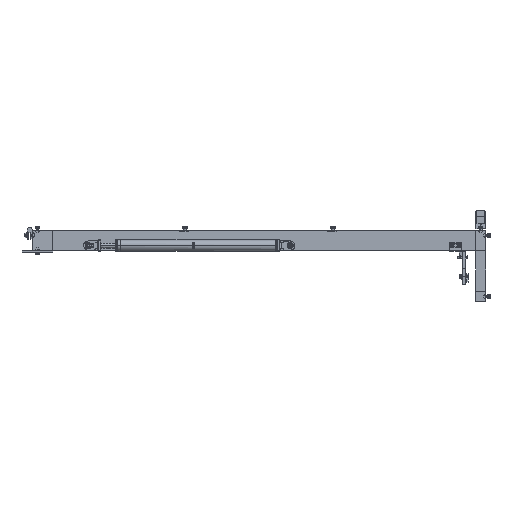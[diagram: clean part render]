
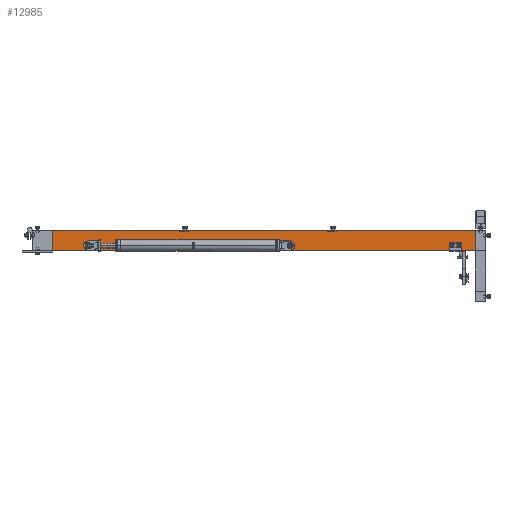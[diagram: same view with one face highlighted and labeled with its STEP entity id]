
A CAD part, left-side view. The second image highlights one B-rep face of the part: STEP entity #12985.
In plain terms, the highlighted planar face has unit normal (-1, 0, 0).
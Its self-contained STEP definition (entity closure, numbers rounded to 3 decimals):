
#3423=PLANE('',#115324);
#3424=PLANE('',#115325);
#3425=PLANE('',#115326);
#3426=PLANE('',#115327);
#3427=PLANE('',#115328);
#12985=ADVANCED_FACE('',(#16267),#3424,.T.);
#16267=FACE_OUTER_BOUND('',#19904,.T.);
#19904=EDGE_LOOP('',(#33861,#33862,#33863,#33864));
#33861=ORIENTED_EDGE('',*,*,#86446,.F.);
#33862=ORIENTED_EDGE('',*,*,#86448,.T.);
#33863=ORIENTED_EDGE('',*,*,#86449,.T.);
#33864=ORIENTED_EDGE('',*,*,#86450,.T.);
#53995=PCURVE('',#3423,#69097);
#53997=PCURVE('',#3424,#69099);
#53998=PCURVE('',#3424,#69100);
#53999=PCURVE('',#3424,#69101);
#54000=PCURVE('',#3424,#69102);
#54001=PCURVE('',#3425,#69103);
#54007=PCURVE('',#3426,#69109);
#54010=PCURVE('',#3427,#69112);
#69097=DEFINITIONAL_REPRESENTATION('',(#103894),#219083);
#69099=DEFINITIONAL_REPRESENTATION('',(#103897),#219083);
#69100=DEFINITIONAL_REPRESENTATION('',(#103899),#219083);
#69101=DEFINITIONAL_REPRESENTATION('',(#103901),#219083);
#69102=DEFINITIONAL_REPRESENTATION('',(#103903),#219083);
#69103=DEFINITIONAL_REPRESENTATION('',(#103904),#219083);
#69109=DEFINITIONAL_REPRESENTATION('',(#103912),#219083);
#69112=DEFINITIONAL_REPRESENTATION('',(#103915),#219083);
#78113=SURFACE_CURVE('',#103893,(#53995,#53997),.PCURVE_S1.);
#78115=SURFACE_CURVE('',#103898,(#53998,#54010),.PCURVE_S1.);
#78116=SURFACE_CURVE('',#103900,(#53999,#54001),.PCURVE_S1.);
#78117=SURFACE_CURVE('',#103902,(#54000,#54007),.PCURVE_S1.);
#86446=EDGE_CURVE('',#110984,#110983,#78113,.T.);
#86448=EDGE_CURVE('',#110984,#110986,#78115,.T.);
#86449=EDGE_CURVE('',#110986,#110985,#78116,.T.);
#86450=EDGE_CURVE('',#110985,#110983,#78117,.T.);
#103893=B_SPLINE_CURVE_WITH_KNOTS('',1,(#208781,#208782),.UNSPECIFIED.,.F.,
 .F.,(2,2),(-400.,0.),.UNSPECIFIED.);
#103894=B_SPLINE_CURVE_WITH_KNOTS('',1,(#208783,#208784),.UNSPECIFIED.,.F.,
 .F.,(2,2),(-400.,0.),.UNSPECIFIED.);
#103897=B_SPLINE_CURVE_WITH_KNOTS('',1,(#208789,#208790),.UNSPECIFIED.,.F.,
 .F.,(2,2),(-400.,0.),.UNSPECIFIED.);
#103898=B_SPLINE_CURVE_WITH_KNOTS('',1,(#208791,#208792),.UNSPECIFIED.,.F.,
 .F.,(2,2),(-100.,-50.),.UNSPECIFIED.);
#103899=B_SPLINE_CURVE_WITH_KNOTS('',1,(#208793,#208794),.UNSPECIFIED.,.F.,
 .F.,(2,2),(-100.,-50.),.UNSPECIFIED.);
#103900=B_SPLINE_CURVE_WITH_KNOTS('',1,(#208795,#208796),.UNSPECIFIED.,.F.,
 .F.,(2,2),(-400.,0.),.UNSPECIFIED.);
#103901=B_SPLINE_CURVE_WITH_KNOTS('',1,(#208797,#208798),.UNSPECIFIED.,.F.,
 .F.,(2,2),(-400.,0.),.UNSPECIFIED.);
#103902=B_SPLINE_CURVE_WITH_KNOTS('',1,(#208799,#208800),.UNSPECIFIED.,.F.,
 .F.,(2,2),(50.,100.),.UNSPECIFIED.);
#103903=B_SPLINE_CURVE_WITH_KNOTS('',1,(#208801,#208802),.UNSPECIFIED.,.F.,
 .F.,(2,2),(50.,100.),.UNSPECIFIED.);
#103904=B_SPLINE_CURVE_WITH_KNOTS('',1,(#208803,#208804),.UNSPECIFIED.,.F.,
 .F.,(2,2),(-400.,0.),.UNSPECIFIED.);
#103912=B_SPLINE_CURVE_WITH_KNOTS('',1,(#208819,#208820),.UNSPECIFIED.,.F.,
 .F.,(2,2),(50.,100.),.UNSPECIFIED.);
#103915=B_SPLINE_CURVE_WITH_KNOTS('',1,(#208825,#208826),.UNSPECIFIED.,.F.,
 .F.,(2,2),(-100.,-50.),.UNSPECIFIED.);
#110983=VERTEX_POINT('',#208755);
#110984=VERTEX_POINT('',#208756);
#110985=VERTEX_POINT('',#208757);
#110986=VERTEX_POINT('',#208758);
#115324=AXIS2_PLACEMENT_3D('',#208746,#117682,$);
#115325=AXIS2_PLACEMENT_3D('',#208747,#117683,$);
#115326=AXIS2_PLACEMENT_3D('',#208748,#117684,$);
#115327=AXIS2_PLACEMENT_3D('',#208749,#117685,$);
#115328=AXIS2_PLACEMENT_3D('',#208750,#117686,$);
#117682=DIRECTION('',(0.,0.,1.));
#117683=DIRECTION('',(-1.,0.,0.));
#117684=DIRECTION('',(0.,0.,-1.));
#117685=DIRECTION('',(0.,-1.,0.));
#117686=DIRECTION('',(0.,1.,0.));
#208746=CARTESIAN_POINT('',(-762.,-565.,180.));
#208747=CARTESIAN_POINT('',(-782.,-565.,180.));
#208748=CARTESIAN_POINT('',(-782.,-565.,140.));
#208749=CARTESIAN_POINT('',(-782.,-565.,140.));
#208750=CARTESIAN_POINT('',(-782.,265.,140.));
#208755=CARTESIAN_POINT('',(-782.,-565.,180.));
#208756=CARTESIAN_POINT('',(-782.,265.,180.));
#208757=CARTESIAN_POINT('',(-782.,-565.,140.));
#208758=CARTESIAN_POINT('',(-782.,265.,140.));
#208781=CARTESIAN_POINT('',(-782.,265.,180.));
#208782=CARTESIAN_POINT('',(-782.,-565.,180.));
#208783=CARTESIAN_POINT('',(400.,-100.));
#208784=CARTESIAN_POINT('',(0.,-100.));
#208789=CARTESIAN_POINT('',(400.,-100.));
#208790=CARTESIAN_POINT('',(0.,-100.));
#208791=CARTESIAN_POINT('',(-782.,265.,180.));
#208792=CARTESIAN_POINT('',(-782.,265.,140.));
#208793=CARTESIAN_POINT('',(400.,-100.));
#208794=CARTESIAN_POINT('',(400.,-50.));
#208795=CARTESIAN_POINT('',(-782.,265.,140.));
#208796=CARTESIAN_POINT('',(-782.,-565.,140.));
#208797=CARTESIAN_POINT('',(400.,-50.));
#208798=CARTESIAN_POINT('',(0.,-50.));
#208799=CARTESIAN_POINT('',(-782.,-565.,140.));
#208800=CARTESIAN_POINT('',(-782.,-565.,180.));
#208801=CARTESIAN_POINT('',(0.,-50.));
#208802=CARTESIAN_POINT('',(0.,-100.));
#208803=CARTESIAN_POINT('',(400.,-50.));
#208804=CARTESIAN_POINT('',(0.,-50.));
#208819=CARTESIAN_POINT('',(-40.,0.));
#208820=CARTESIAN_POINT('',(-40.,40.));
#208825=CARTESIAN_POINT('',(40.,-40.));
#208826=CARTESIAN_POINT('',(0.,-40.));
#219083=(
GEOMETRIC_REPRESENTATION_CONTEXT(2)
PARAMETRIC_REPRESENTATION_CONTEXT()
REPRESENTATION_CONTEXT('pspace','')
);
